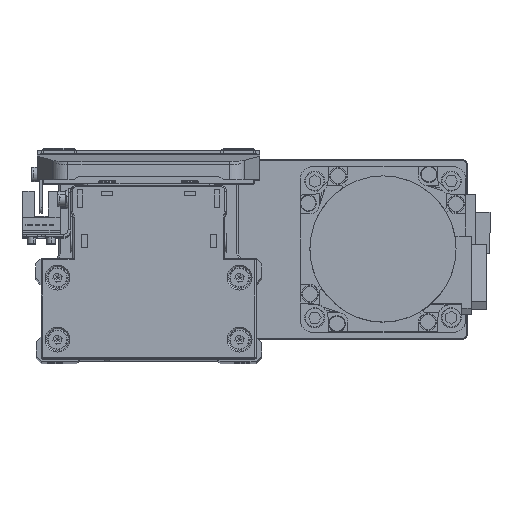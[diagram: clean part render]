
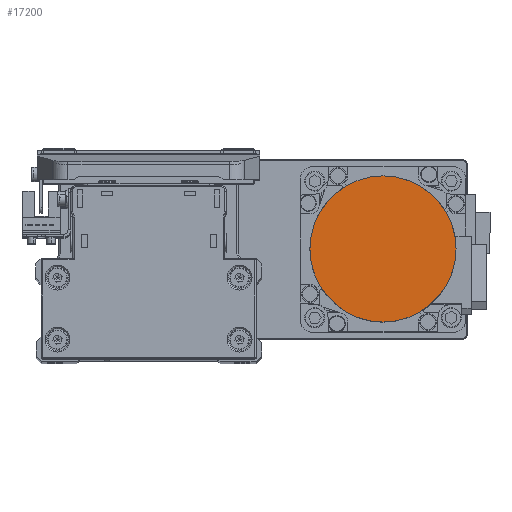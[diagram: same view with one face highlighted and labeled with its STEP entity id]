
A CAD part, top view. The second image highlights one B-rep face of the part: STEP entity #17200.
In plain terms, the highlighted planar face has unit normal (0, 0, 1) as drawn and (0, 0, -1) by its records, which use the part's own axes.
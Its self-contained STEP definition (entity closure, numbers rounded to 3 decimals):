
#2707 = DIRECTION ( 'NONE',  ( 0., 0., 1. ) ) ;
#3206 = EDGE_CURVE ( 'NONE', #4844, #16554, #3667, .T. ) ;
#3667 = CIRCLE ( 'NONE', #8909, 26.5 ) ;
#4368 = DIRECTION ( 'NONE',  ( 0., 0., 1. ) ) ;
#4844 = VERTEX_POINT ( 'NONE', #7615 ) ;
#5768 = FACE_OUTER_BOUND ( 'NONE', #15650, .T. ) ;
#7615 = CARTESIAN_POINT ( 'NONE',  ( -26.5, 0., -109.7 ) ) ;
#8909 = AXIS2_PLACEMENT_3D ( 'NONE', #40446, #12350, #24864 ) ;
#12350 = DIRECTION ( 'NONE',  ( 0., 0., 1. ) ) ;
#15222 = DIRECTION ( 'NONE',  ( 1., 0., 0. ) ) ;
#15650 = EDGE_LOOP ( 'NONE', ( #37373, #28985 ) ) ;
#16554 = VERTEX_POINT ( 'NONE', #19677 ) ;
#16604 = CIRCLE ( 'NONE', #39510, 26.5 ) ;
#16910 = DIRECTION ( 'NONE',  ( 1., 0., 0. ) ) ;
#17200 = ADVANCED_FACE ( 'NONE', ( #5768 ), #18314, .F. ) ;
#18314 = PLANE ( 'NONE',  #31947 ) ;
#18786 = EDGE_CURVE ( 'NONE', #16554, #4844, #16604, .T. ) ;
#19677 = CARTESIAN_POINT ( 'NONE',  ( 26.5, 0., -109.7 ) ) ;
#24864 = DIRECTION ( 'NONE',  ( -1., 0., 0. ) ) ;
#28985 = ORIENTED_EDGE ( 'NONE', *, *, #18786, .F. ) ;
#30819 = CARTESIAN_POINT ( 'NONE',  ( 0., 0., -109.7 ) ) ;
#31947 = AXIS2_PLACEMENT_3D ( 'NONE', #30819, #2707, #15222 ) ;
#32496 = CARTESIAN_POINT ( 'NONE',  ( 0., 0., -109.7 ) ) ;
#37373 = ORIENTED_EDGE ( 'NONE', *, *, #3206, .F. ) ;
#39510 = AXIS2_PLACEMENT_3D ( 'NONE', #32496, #4368, #16910 ) ;
#40446 = CARTESIAN_POINT ( 'NONE',  ( 0., 0., -109.7 ) ) ;
